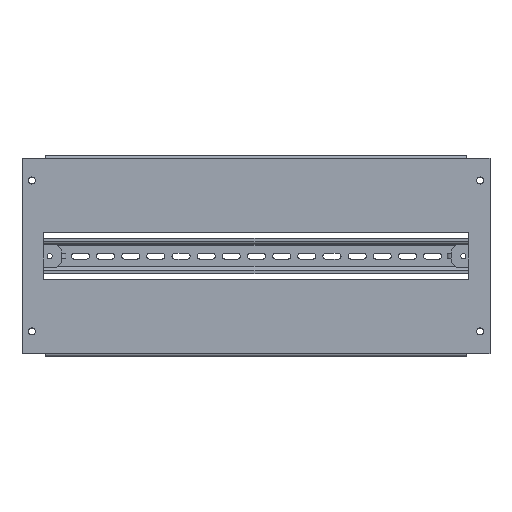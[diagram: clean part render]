
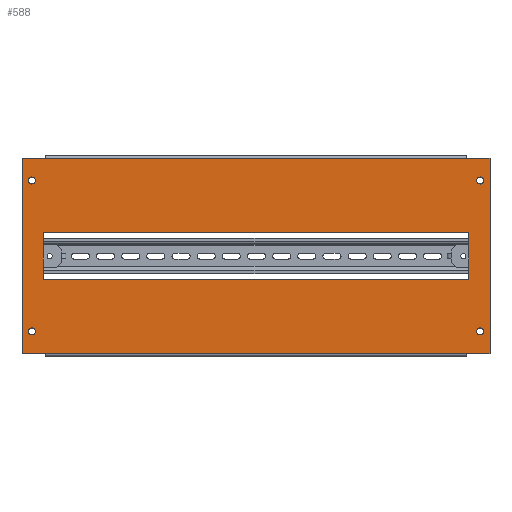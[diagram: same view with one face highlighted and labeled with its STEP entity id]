
A CAD part, top view. The second image highlights one B-rep face of the part: STEP entity #588.
In plain terms, the highlighted planar face has unit normal (0, 0, 1).
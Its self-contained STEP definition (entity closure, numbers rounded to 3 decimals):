
#41 = CARTESIAN_POINT ( 'NONE',  ( 232.5, -97.1, 1.2 ) ) ;
#75 = VECTOR ( 'NONE', #4214, 1000. ) ;
#153 = EDGE_CURVE ( 'NONE', #4017, #4017, #5056, .T. ) ;
#162 = EDGE_CURVE ( 'NONE', #1918, #2500, #1972, .T. ) ;
#218 = AXIS2_PLACEMENT_3D ( 'NONE', #2109, #4027, #4440 ) ;
#244 = CARTESIAN_POINT ( 'NONE',  ( -232.5, -97.1, 1.2 ) ) ;
#393 = VERTEX_POINT ( 'NONE', #4550 ) ;
#416 = CARTESIAN_POINT ( 'NONE',  ( -232.5, 97.1, 1.2 ) ) ;
#450 = ORIENTED_EDGE ( 'NONE', *, *, #4181, .T. ) ;
#588 = ADVANCED_FACE ( 'NONE', ( #3771, #4283, #2532, #5901, #3040, #1063 ), #5747, .T. ) ;
#597 = CIRCLE ( 'NONE', #218, 3.5 ) ;
#644 = DIRECTION ( 'NONE',  ( 1., 0., 0. ) ) ;
#721 = VERTEX_POINT ( 'NONE', #3196 ) ;
#731 = CARTESIAN_POINT ( 'NONE',  ( -232.5, -97.1, 1.2 ) ) ;
#752 = ORIENTED_EDGE ( 'NONE', *, *, #2754, .T. ) ;
#813 = DIRECTION ( 'NONE',  ( 1., 0., 0. ) ) ;
#818 = DIRECTION ( 'NONE',  ( -1., 0., 0. ) ) ;
#840 = DIRECTION ( 'NONE',  ( 0., 0., -1. ) ) ;
#859 = DIRECTION ( 'NONE',  ( 1., 0., 0. ) ) ;
#863 = EDGE_CURVE ( 'NONE', #1285, #3226, #1064, .T. ) ;
#896 = VECTOR ( 'NONE', #5840, 1000. ) ;
#969 = CARTESIAN_POINT ( 'NONE',  ( -211.5, -99.5, 1.2 ) ) ;
#1063 = FACE_BOUND ( 'NONE', #3286, .T. ) ;
#1064 = LINE ( 'NONE', #2681, #5768 ) ;
#1079 = CARTESIAN_POINT ( 'NONE',  ( 226.25, 75., 1.2 ) ) ;
#1126 = CIRCLE ( 'NONE', #1278, 3.5 ) ;
#1138 = EDGE_CURVE ( 'NONE', #1292, #1918, #3323, .T. ) ;
#1221 = VERTEX_POINT ( 'NONE', #2576 ) ;
#1239 = EDGE_CURVE ( 'NONE', #1992, #1992, #1126, .T. ) ;
#1250 = VERTEX_POINT ( 'NONE', #4472 ) ;
#1254 = CARTESIAN_POINT ( 'NONE',  ( 209.5, -97.1, 1.2 ) ) ;
#1263 = ORIENTED_EDGE ( 'NONE', *, *, #5841, .T. ) ;
#1278 = AXIS2_PLACEMENT_3D ( 'NONE', #4001, #1694, #813 ) ;
#1285 = VERTEX_POINT ( 'NONE', #1254 ) ;
#1292 = VERTEX_POINT ( 'NONE', #5386 ) ;
#1298 = EDGE_CURVE ( 'NONE', #1221, #1292, #4970, .T. ) ;
#1381 = AXIS2_PLACEMENT_3D ( 'NONE', #4316, #3399, #3909 ) ;
#1440 = DIRECTION ( 'NONE',  ( 0., 1., 0. ) ) ;
#1465 = CARTESIAN_POINT ( 'NONE',  ( 226.25, -75., 1.2 ) ) ;
#1694 = DIRECTION ( 'NONE',  ( 0., 0., -1. ) ) ;
#1698 = DIRECTION ( 'NONE',  ( -1., 0., 0. ) ) ;
#1917 = EDGE_CURVE ( 'NONE', #2500, #1285, #3884, .T. ) ;
#1918 = VERTEX_POINT ( 'NONE', #4411 ) ;
#1972 = LINE ( 'NONE', #244, #3411 ) ;
#1992 = VERTEX_POINT ( 'NONE', #5187 ) ;
#2036 = DIRECTION ( 'NONE',  ( 1., 0., 0. ) ) ;
#2053 = ORIENTED_EDGE ( 'NONE', *, *, #1298, .T. ) ;
#2109 = CARTESIAN_POINT ( 'NONE',  ( -222.75, -75., 1.2 ) ) ;
#2210 = ORIENTED_EDGE ( 'NONE', *, *, #1138, .T. ) ;
#2216 = LINE ( 'NONE', #969, #4023 ) ;
#2230 = VECTOR ( 'NONE', #4487, 1000. ) ;
#2253 = DIRECTION ( 'NONE',  ( 1., 0., 0. ) ) ;
#2425 = EDGE_LOOP ( 'NONE', ( #2435 ) ) ;
#2435 = ORIENTED_EDGE ( 'NONE', *, *, #153, .T. ) ;
#2500 = VERTEX_POINT ( 'NONE', #4164 ) ;
#2524 = CARTESIAN_POINT ( 'NONE',  ( -232.5, -99.5, 1.2 ) ) ;
#2532 = FACE_BOUND ( 'NONE', #3802, .T. ) ;
#2572 = EDGE_LOOP ( 'NONE', ( #3285 ) ) ;
#2576 = CARTESIAN_POINT ( 'NONE',  ( -209.5, 97.1, 1.2 ) ) ;
#2581 = CARTESIAN_POINT ( 'NONE',  ( -232.5, -23., 1.2 ) ) ;
#2681 = CARTESIAN_POINT ( 'NONE',  ( -232.5, -97.1, 1.2 ) ) ;
#2754 = EDGE_CURVE ( 'NONE', #4086, #393, #5491, .T. ) ;
#2772 = ORIENTED_EDGE ( 'NONE', *, *, #4922, .T. ) ;
#2878 = LINE ( 'NONE', #3044, #2230 ) ;
#2949 = EDGE_LOOP ( 'NONE', ( #5599, #2053, #2210, #5342, #3008, #3662, #2772, #4433 ) ) ;
#2966 = DIRECTION ( 'NONE',  ( 0., 0., 1. ) ) ;
#2983 = CARTESIAN_POINT ( 'NONE',  ( -211.5, 23., 1.2 ) ) ;
#3008 = ORIENTED_EDGE ( 'NONE', *, *, #1917, .T. ) ;
#3040 = FACE_BOUND ( 'NONE', #2425, .T. ) ;
#3044 = CARTESIAN_POINT ( 'NONE',  ( 232.5, -99.5, 1.2 ) ) ;
#3196 = CARTESIAN_POINT ( 'NONE',  ( 232.5, 97.1, 1.2 ) ) ;
#3226 = VERTEX_POINT ( 'NONE', #41 ) ;
#3285 = ORIENTED_EDGE ( 'NONE', *, *, #5275, .T. ) ;
#3286 = EDGE_LOOP ( 'NONE', ( #4583, #752, #1263, #3809 ) ) ;
#3305 = CARTESIAN_POINT ( 'NONE',  ( 211.5, -23., 1.2 ) ) ;
#3323 = LINE ( 'NONE', #3338, #5759 ) ;
#3338 = CARTESIAN_POINT ( 'NONE',  ( -232.5, -99.5, 1.2 ) ) ;
#3399 = DIRECTION ( 'NONE',  ( 0., 0., -1. ) ) ;
#3411 = VECTOR ( 'NONE', #3847, 1000. ) ;
#3429 = EDGE_LOOP ( 'NONE', ( #450 ) ) ;
#3447 = ORIENTED_EDGE ( 'NONE', *, *, #1239, .T. ) ;
#3653 = CARTESIAN_POINT ( 'NONE',  ( -211.5, -23., 1.2 ) ) ;
#3662 = ORIENTED_EDGE ( 'NONE', *, *, #863, .T. ) ;
#3733 = LINE ( 'NONE', #2581, #5374 ) ;
#3771 = FACE_BOUND ( 'NONE', #3429, .T. ) ;
#3784 = CARTESIAN_POINT ( 'NONE',  ( 211.5, -99.5, 1.2 ) ) ;
#3802 = EDGE_LOOP ( 'NONE', ( #3447 ) ) ;
#3803 = DIRECTION ( 'NONE',  ( 0., -1., 0. ) ) ;
#3809 = ORIENTED_EDGE ( 'NONE', *, *, #5241, .T. ) ;
#3847 = DIRECTION ( 'NONE',  ( 1., 0., 0. ) ) ;
#3884 = LINE ( 'NONE', #731, #4666 ) ;
#3909 = DIRECTION ( 'NONE',  ( 1., 0., 0. ) ) ;
#4001 = CARTESIAN_POINT ( 'NONE',  ( -222.75, 75., 1.2 ) ) ;
#4017 = VERTEX_POINT ( 'NONE', #1465 ) ;
#4023 = VECTOR ( 'NONE', #1440, 1000. ) ;
#4024 = CARTESIAN_POINT ( 'NONE',  ( -232.5, 97.1, 1.2 ) ) ;
#4027 = DIRECTION ( 'NONE',  ( 0., 0., -1. ) ) ;
#4033 = LINE ( 'NONE', #4024, #5588 ) ;
#4086 = VERTEX_POINT ( 'NONE', #2983 ) ;
#4146 = DIRECTION ( 'NONE',  ( -1., 0., 0. ) ) ;
#4164 = CARTESIAN_POINT ( 'NONE',  ( -209.5, -97.1, 1.2 ) ) ;
#4181 = EDGE_CURVE ( 'NONE', #5080, #5080, #597, .T. ) ;
#4214 = DIRECTION ( 'NONE',  ( 0., -1., 0. ) ) ;
#4244 = VERTEX_POINT ( 'NONE', #1079 ) ;
#4283 = FACE_OUTER_BOUND ( 'NONE', #2949, .T. ) ;
#4297 = CARTESIAN_POINT ( 'NONE',  ( -219.25, -75., 1.2 ) ) ;
#4301 = VECTOR ( 'NONE', #4963, 1000. ) ;
#4316 = CARTESIAN_POINT ( 'NONE',  ( 222.75, -75., 1.2 ) ) ;
#4411 = CARTESIAN_POINT ( 'NONE',  ( -232.5, -97.1, 1.2 ) ) ;
#4433 = ORIENTED_EDGE ( 'NONE', *, *, #4966, .T. ) ;
#4440 = DIRECTION ( 'NONE',  ( 1., 0., 0. ) ) ;
#4472 = CARTESIAN_POINT ( 'NONE',  ( 209.5, 97.1, 1.2 ) ) ;
#4487 = DIRECTION ( 'NONE',  ( 0., 1., 0. ) ) ;
#4550 = CARTESIAN_POINT ( 'NONE',  ( 211.5, 23., 1.2 ) ) ;
#4583 = ORIENTED_EDGE ( 'NONE', *, *, #5764, .T. ) ;
#4666 = VECTOR ( 'NONE', #2036, 1000. ) ;
#4678 = LINE ( 'NONE', #416, #5020 ) ;
#4704 = AXIS2_PLACEMENT_3D ( 'NONE', #4915, #840, #859 ) ;
#4915 = CARTESIAN_POINT ( 'NONE',  ( 222.75, 75., 1.2 ) ) ;
#4922 = EDGE_CURVE ( 'NONE', #3226, #721, #2878, .T. ) ;
#4963 = DIRECTION ( 'NONE',  ( 1., 0., 0. ) ) ;
#4966 = EDGE_CURVE ( 'NONE', #721, #1250, #4678, .T. ) ;
#4970 = LINE ( 'NONE', #5806, #896 ) ;
#4982 = VERTEX_POINT ( 'NONE', #3653 ) ;
#5020 = VECTOR ( 'NONE', #4146, 1000. ) ;
#5056 = CIRCLE ( 'NONE', #1381, 3.5 ) ;
#5080 = VERTEX_POINT ( 'NONE', #4297 ) ;
#5135 = VERTEX_POINT ( 'NONE', #3305 ) ;
#5187 = CARTESIAN_POINT ( 'NONE',  ( -219.25, 75., 1.2 ) ) ;
#5221 = EDGE_CURVE ( 'NONE', #1250, #1221, #4033, .T. ) ;
#5228 = LINE ( 'NONE', #3784, #75 ) ;
#5237 = CIRCLE ( 'NONE', #4704, 3.5 ) ;
#5241 = EDGE_CURVE ( 'NONE', #5135, #4982, #3733, .T. ) ;
#5275 = EDGE_CURVE ( 'NONE', #4244, #4244, #5237, .T. ) ;
#5338 = CARTESIAN_POINT ( 'NONE',  ( -232.5, 23., 1.2 ) ) ;
#5342 = ORIENTED_EDGE ( 'NONE', *, *, #162, .T. ) ;
#5374 = VECTOR ( 'NONE', #1698, 1000. ) ;
#5386 = CARTESIAN_POINT ( 'NONE',  ( -232.5, 97.1, 1.2 ) ) ;
#5428 = AXIS2_PLACEMENT_3D ( 'NONE', #2524, #2966, #644 ) ;
#5491 = LINE ( 'NONE', #5338, #4301 ) ;
#5588 = VECTOR ( 'NONE', #818, 1000. ) ;
#5599 = ORIENTED_EDGE ( 'NONE', *, *, #5221, .T. ) ;
#5747 = PLANE ( 'NONE',  #5428 ) ;
#5759 = VECTOR ( 'NONE', #3803, 1000. ) ;
#5764 = EDGE_CURVE ( 'NONE', #4982, #4086, #2216, .T. ) ;
#5768 = VECTOR ( 'NONE', #2253, 1000. ) ;
#5806 = CARTESIAN_POINT ( 'NONE',  ( -232.5, 97.1, 1.2 ) ) ;
#5840 = DIRECTION ( 'NONE',  ( -1., 0., 0. ) ) ;
#5841 = EDGE_CURVE ( 'NONE', #393, #5135, #5228, .T. ) ;
#5901 = FACE_BOUND ( 'NONE', #2572, .T. ) ;
